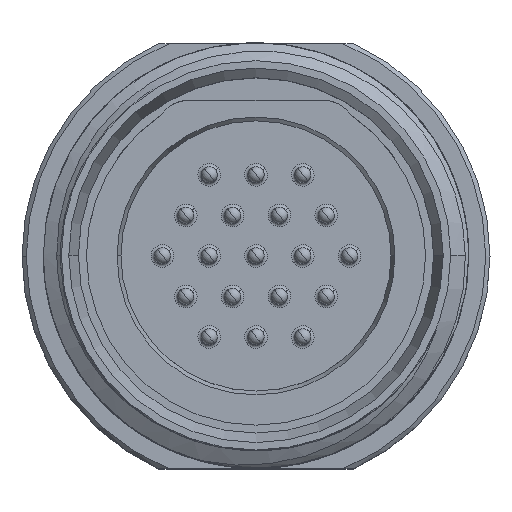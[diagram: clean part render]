
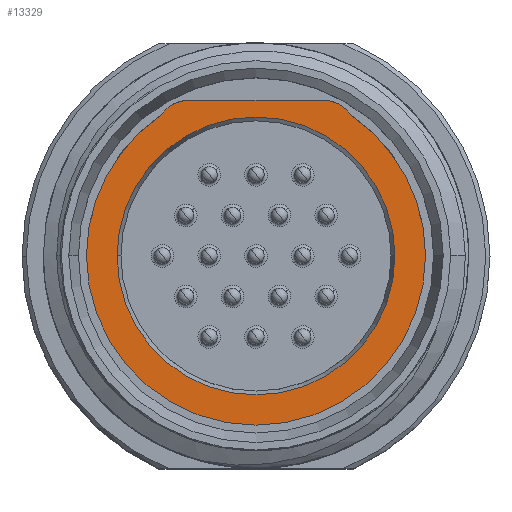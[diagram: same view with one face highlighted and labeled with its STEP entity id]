
A CAD part, top view. The second image highlights one B-rep face of the part: STEP entity #13329.
In plain terms, the highlighted planar face has unit normal (0, 0, 1).
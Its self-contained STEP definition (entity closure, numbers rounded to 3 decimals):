
#775 = VERTEX_POINT ( 'NONE', #8683 ) ;
#1339 = AXIS2_PLACEMENT_3D ( 'NONE', #4868, #1371, #11536 ) ;
#1371 = DIRECTION ( 'NONE',  ( 0., 0., 1. ) ) ;
#1547 = DIRECTION ( 'NONE',  ( 1., 0., 0. ) ) ;
#1913 = CARTESIAN_POINT ( 'NONE',  ( 0., 0., 0. ) ) ;
#2046 = DIRECTION ( 'NONE',  ( 1., 0., 0. ) ) ;
#2683 = AXIS2_PLACEMENT_3D ( 'NONE', #1913, #3026, #12163 ) ;
#2754 = CIRCLE ( 'NONE', #1339, 6.53 ) ;
#2808 = CARTESIAN_POINT ( 'NONE',  ( -6.53, 0., 0. ) ) ;
#2874 = DIRECTION ( 'NONE',  ( 0., 0., 1. ) ) ;
#2981 = FACE_BOUND ( 'NONE', #9822, .T. ) ;
#3026 = DIRECTION ( 'NONE',  ( 0., 0., 1. ) ) ;
#3993 = CARTESIAN_POINT ( 'NONE',  ( 6.53, 0., 0. ) ) ;
#3995 = CARTESIAN_POINT ( 'NONE',  ( 0., 0., 0. ) ) ;
#4485 = EDGE_CURVE ( 'NONE', #10804, #775, #5305, .T. ) ;
#4868 = CARTESIAN_POINT ( 'NONE',  ( 0., 0., 0. ) ) ;
#5305 = CIRCLE ( 'NONE', #2683, 8.22 ) ;
#5316 = EDGE_CURVE ( 'NONE', #775, #10804, #13302, .T. ) ;
#5431 = CARTESIAN_POINT ( 'NONE',  ( 8.22, 0., 0. ) ) ;
#5434 = CIRCLE ( 'NONE', #7103, 6.53 ) ;
#6406 = FACE_OUTER_BOUND ( 'NONE', #13566, .T. ) ;
#6902 = ORIENTED_EDGE ( 'NONE', *, *, #4485, .T. ) ;
#7103 = AXIS2_PLACEMENT_3D ( 'NONE', #8770, #8698, #2046 ) ;
#7463 = DIRECTION ( 'NONE',  ( -1., 0., 0. ) ) ;
#7533 = CARTESIAN_POINT ( 'NONE',  ( 0., 8.22, 0. ) ) ;
#8153 = EDGE_CURVE ( 'NONE', #13711, #9310, #2754, .T. ) ;
#8506 = AXIS2_PLACEMENT_3D ( 'NONE', #3995, #2874, #1547 ) ;
#8683 = CARTESIAN_POINT ( 'NONE',  ( -8.22, 0., 0. ) ) ;
#8698 = DIRECTION ( 'NONE',  ( 0., 0., 1. ) ) ;
#8770 = CARTESIAN_POINT ( 'NONE',  ( 0., 0., 0. ) ) ;
#8812 = DIRECTION ( 'NONE',  ( 0., 0., -1. ) ) ;
#9310 = VERTEX_POINT ( 'NONE', #2808 ) ;
#9502 = AXIS2_PLACEMENT_3D ( 'NONE', #7533, #8812, #7463 ) ;
#9822 = EDGE_LOOP ( 'NONE', ( #12327, #10817 ) ) ;
#10804 = VERTEX_POINT ( 'NONE', #5431 ) ;
#10817 = ORIENTED_EDGE ( 'NONE', *, *, #11435, .F. ) ;
#11435 = EDGE_CURVE ( 'NONE', #9310, #13711, #5434, .T. ) ;
#11536 = DIRECTION ( 'NONE',  ( 1., 0., 0. ) ) ;
#11611 = ORIENTED_EDGE ( 'NONE', *, *, #5316, .T. ) ;
#12163 = DIRECTION ( 'NONE',  ( 1., 0., 0. ) ) ;
#12327 = ORIENTED_EDGE ( 'NONE', *, *, #8153, .F. ) ;
#13302 = CIRCLE ( 'NONE', #8506, 8.22 ) ;
#13329 = ADVANCED_FACE ( 'NONE', ( #6406, #2981 ), #13393, .F. ) ;
#13393 = PLANE ( 'NONE',  #9502 ) ;
#13566 = EDGE_LOOP ( 'NONE', ( #6902, #11611 ) ) ;
#13711 = VERTEX_POINT ( 'NONE', #3993 ) ;
